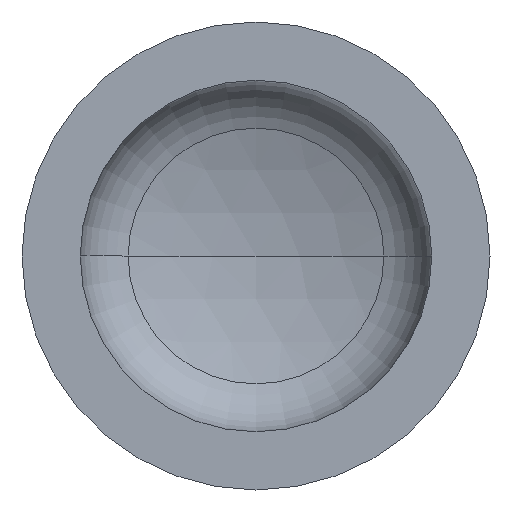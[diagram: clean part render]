
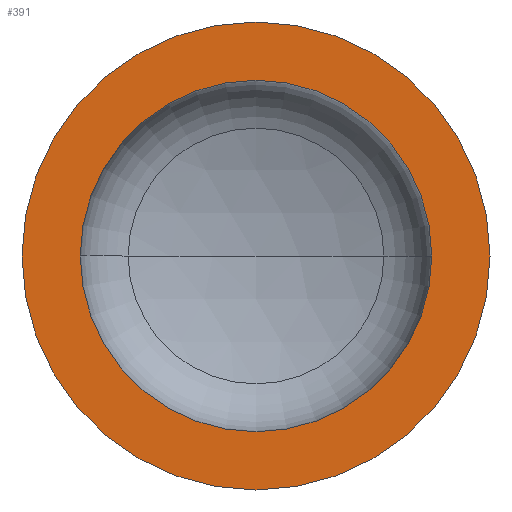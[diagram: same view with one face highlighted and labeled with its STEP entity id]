
A CAD part, front view. The second image highlights one B-rep face of the part: STEP entity #391.
In plain terms, the highlighted planar face has unit normal (0, -1, 0).
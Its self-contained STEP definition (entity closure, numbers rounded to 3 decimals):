
#2 = AXIS2_PLACEMENT_3D ( 'NONE', #183, #380, #117 ) ;
#12 = CARTESIAN_POINT ( 'NONE',  ( -450., 0., 0. ) ) ;
#20 = FACE_BOUND ( 'NONE', #403, .T. ) ;
#30 = CIRCLE ( 'NONE', #47, 338. ) ;
#32 = AXIS2_PLACEMENT_3D ( 'NONE', #156, #169, #163 ) ;
#47 = AXIS2_PLACEMENT_3D ( 'NONE', #315, #314, #313 ) ;
#48 = AXIS2_PLACEMENT_3D ( 'NONE', #328, #320, #319 ) ;
#58 = EDGE_CURVE ( 'NONE', #195, #378, #203, .T. ) ;
#59 = EDGE_CURVE ( 'NONE', #92, #365, #30, .T. ) ;
#65 = ORIENTED_EDGE ( 'NONE', *, *, #200, .T. ) ;
#92 = VERTEX_POINT ( 'NONE', #291 ) ;
#98 = PLANE ( 'NONE',  #234 ) ;
#117 = DIRECTION ( 'NONE',  ( 1., 0., 0. ) ) ;
#121 = CARTESIAN_POINT ( 'NONE',  ( -338., 0., 0. ) ) ;
#128 = CIRCLE ( 'NONE', #2, 338. ) ;
#152 = DIRECTION ( 'NONE',  ( 0., 1., 0. ) ) ;
#155 = EDGE_LOOP ( 'NONE', ( #65, #172 ) ) ;
#156 = CARTESIAN_POINT ( 'NONE',  ( 0., 0., 0. ) ) ;
#163 = DIRECTION ( 'NONE',  ( 1., 0., 0. ) ) ;
#169 = DIRECTION ( 'NONE',  ( 0., -1., 0. ) ) ;
#172 = ORIENTED_EDGE ( 'NONE', *, *, #58, .T. ) ;
#183 = CARTESIAN_POINT ( 'NONE',  ( 0., 0., 0. ) ) ;
#195 = VERTEX_POINT ( 'NONE', #12 ) ;
#200 = EDGE_CURVE ( 'NONE', #378, #195, #389, .T. ) ;
#203 = CIRCLE ( 'NONE', #48, 450. ) ;
#210 = CARTESIAN_POINT ( 'NONE',  ( -450., 0., 0. ) ) ;
#234 = AXIS2_PLACEMENT_3D ( 'NONE', #210, #152, #262 ) ;
#262 = DIRECTION ( 'NONE',  ( -1., 0., 0. ) ) ;
#291 = CARTESIAN_POINT ( 'NONE',  ( 338., 0., 0. ) ) ;
#300 = ORIENTED_EDGE ( 'NONE', *, *, #59, .F. ) ;
#313 = DIRECTION ( 'NONE',  ( 1., 0., 0. ) ) ;
#314 = DIRECTION ( 'NONE',  ( 0., -1., 0. ) ) ;
#315 = CARTESIAN_POINT ( 'NONE',  ( 0., 0., 0. ) ) ;
#319 = DIRECTION ( 'NONE',  ( 1., 0., 0. ) ) ;
#320 = DIRECTION ( 'NONE',  ( 0., -1., 0. ) ) ;
#328 = CARTESIAN_POINT ( 'NONE',  ( 0., 0., 0. ) ) ;
#333 = ORIENTED_EDGE ( 'NONE', *, *, #379, .F. ) ;
#358 = FACE_OUTER_BOUND ( 'NONE', #155, .T. ) ;
#365 = VERTEX_POINT ( 'NONE', #121 ) ;
#378 = VERTEX_POINT ( 'NONE', #404 ) ;
#379 = EDGE_CURVE ( 'NONE', #365, #92, #128, .T. ) ;
#380 = DIRECTION ( 'NONE',  ( 0., -1., 0. ) ) ;
#389 = CIRCLE ( 'NONE', #32, 450. ) ;
#391 = ADVANCED_FACE ( 'NONE', ( #20, #358 ), #98, .F. ) ;
#403 = EDGE_LOOP ( 'NONE', ( #300, #333 ) ) ;
#404 = CARTESIAN_POINT ( 'NONE',  ( 450., 0., 0. ) ) ;
